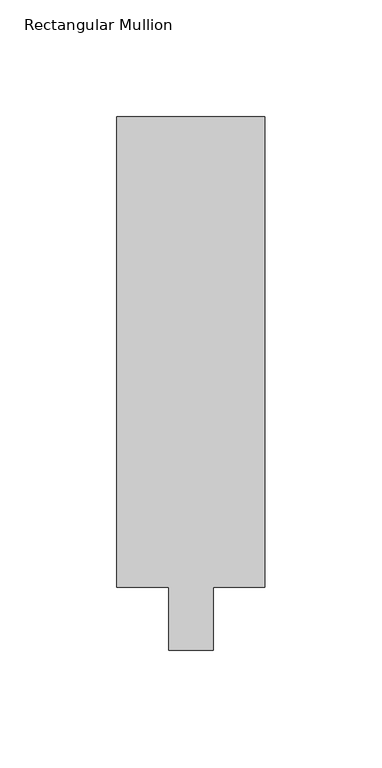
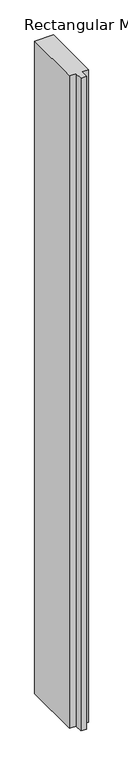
"""IFC4 building model written with IfcOpenShell, lengths in millimetres: member geometry."""

from ifc_helpers import new_model, si_unit, frame, origin, place, context, project, spatial, polyline, outline, extrude, source, transform, mapped, element, save


def rectangular_mullion_6b22e22a(model_context):
    return source(origin(), model_context, "Body", "SweptSolid", [
        extrude(outline(polyline([(-63.5, 228.6), (0.0, 228.6), (0.0, 26.9875), (-22.225, 26.9875), (-22.225, 0.0), (-41.275, 0.0), (-41.275, 26.9875), (-63.5, 26.9875), (-63.5, 228.6)])), frame((0.0, 0.0, -2306.6510357), z_axis=(0.0, 0.0, 1.0), x_axis=(1.0, 0.0, 0.0)), (0.0, 0.0, 1.0), 2306.6510357),
    ])


if __name__ == "__main__":
    model = new_model("IFC4")
    model_context = context("Model", 3, world=origin())
    ifc_project = project(units=[si_unit("LENGTHUNIT", "METRE", prefix="MILLI")], contexts=[model_context])
    site = spatial("IfcSite", under=ifc_project)
    building = spatial("IfcBuilding", under=site)
    placement = place(None, origin())
    rectangular_mullion_shape = rectangular_mullion_6b22e22a(model_context)
    element("IfcMember", 1, ObjectType="Rectangular Mullion : 2 1/2\" x 8\" - Capless", at=placement, inside=building, context=model_context, shape_type="MappedRepresentation", body=[
        mapped(rectangular_mullion_shape, transform((0.0, 0.0, 0.0), x_axis=(1.0, 0.0, 0.0), y_axis=(0.0, 1.0, 0.0), z_axis=(0.0, 0.0, 1.0))),
    ])
    save(model, "model.ifc")
